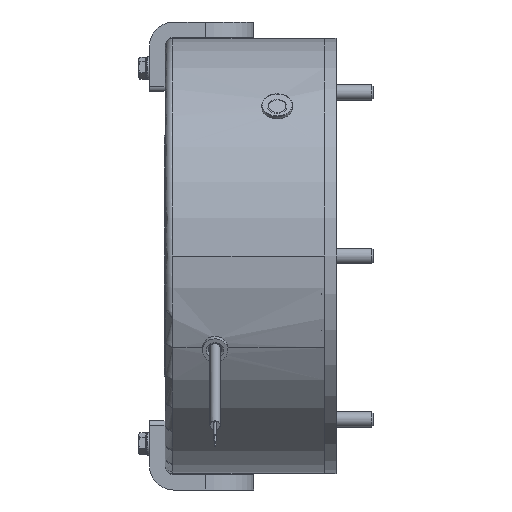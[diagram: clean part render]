
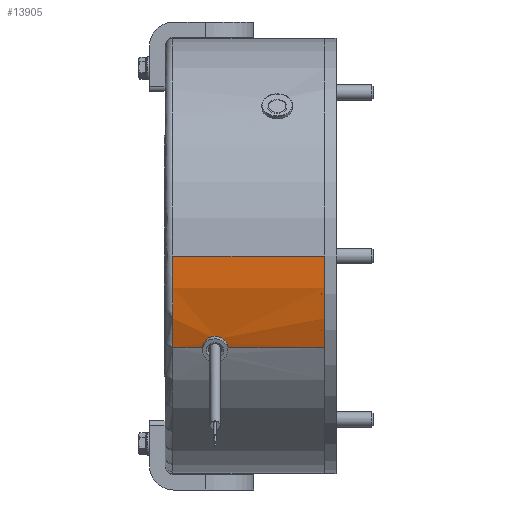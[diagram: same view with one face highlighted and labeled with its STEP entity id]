
A CAD part, front view. The second image highlights one B-rep face of the part: STEP entity #13905.
In plain terms, the highlighted cylindrical face has radius 113 mm (diameter 226 mm), a partial arc.
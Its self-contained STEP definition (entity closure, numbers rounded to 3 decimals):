
#244=B_SPLINE_CURVE_WITH_KNOTS('',3,(#22728,#22729,#22730,#22731,#22732,
#22733,#22734,#22735,#22736,#22737,#22738,#22739,#22740,#22741,#22742,#22743,
#22744,#22745,#22746),.UNSPECIFIED.,.F.,.F.,(4,2,2,2,3,2,2,2,4),(2.348,
2.544,2.74,2.936,3.131,3.327,
3.523,3.718,3.914),.UNSPECIFIED.);
#1348=FACE_OUTER_BOUND('',#2228,.T.);
#2228=EDGE_LOOP('',(#10614,#10615,#10616,#10617,#10618,#10619,#10620,#10621));
#2735=LINE('',#22240,#3397);
#2736=LINE('',#22248,#3398);
#2737=LINE('',#22254,#3399);
#2738=LINE('',#22256,#3400);
#2739=LINE('',#22276,#3401);
#3397=VECTOR('',#17187,113.);
#3398=VECTOR('',#17194,113.);
#3399=VECTOR('',#17199,113.);
#3400=VECTOR('',#17200,10.);
#3401=VECTOR('',#17201,10.);
#4463=CIRCLE('',#15264,113.);
#4465=CIRCLE('',#15267,113.);
#5291=VERTEX_POINT('',#22238);
#5292=VERTEX_POINT('',#22239);
#5295=VERTEX_POINT('',#22245);
#5296=VERTEX_POINT('',#22247);
#5298=VERTEX_POINT('',#22251);
#5299=VERTEX_POINT('',#22253);
#5300=VERTEX_POINT('',#22255);
#5301=VERTEX_POINT('',#22257);
#6861=EDGE_CURVE('',#5291,#5292,#2735,.T.);
#6865=EDGE_CURVE('',#5296,#5295,#2736,.T.);
#6868=EDGE_CURVE('',#5299,#5298,#2737,.T.);
#6869=EDGE_CURVE('',#5300,#5299,#2738,.T.);
#6871=EDGE_CURVE('',#5292,#5301,#2739,.T.);
#7011=EDGE_CURVE('',#5301,#5300,#244,.T.);
#7464=EDGE_CURVE('',#5291,#5295,#4463,.T.);
#7466=EDGE_CURVE('',#5296,#5298,#4465,.T.);
#10614=ORIENTED_EDGE('',*,*,#6861,.T.);
#10615=ORIENTED_EDGE('',*,*,#6871,.T.);
#10616=ORIENTED_EDGE('',*,*,#7011,.T.);
#10617=ORIENTED_EDGE('',*,*,#6869,.T.);
#10618=ORIENTED_EDGE('',*,*,#6868,.T.);
#10619=ORIENTED_EDGE('',*,*,#7466,.F.);
#10620=ORIENTED_EDGE('',*,*,#6865,.T.);
#10621=ORIENTED_EDGE('',*,*,#7464,.F.);
#12551=CYLINDRICAL_SURFACE('',#15266,113.);
#13905=ADVANCED_FACE('',(#1348),#12551,.T.);
#15264=AXIS2_PLACEMENT_3D('',#23861,#18472,#18473);
#15266=AXIS2_PLACEMENT_3D('',#23863,#18476,#18477);
#15267=AXIS2_PLACEMENT_3D('',#23864,#18478,#18479);
#17187=DIRECTION('',(1.,0.,0.));
#17194=DIRECTION('',(-1.,0.,0.));
#17199=DIRECTION('',(1.,0.,0.));
#17200=DIRECTION('',(1.,0.,0.));
#17201=DIRECTION('',(1.,0.,0.));
#18472=DIRECTION('center_axis',(-1.,0.,0.));
#18473=DIRECTION('ref_axis',(0.,-1.,0.));
#18476=DIRECTION('center_axis',(1.,0.,0.));
#18477=DIRECTION('ref_axis',(0.,0.906,0.423));
#18478=DIRECTION('center_axis',(1.,0.,0.));
#18479=DIRECTION('ref_axis',(0.,1.,0.));
#22238=CARTESIAN_POINT('',(-78.8,-102.413,-47.756));
#22239=CARTESIAN_POINT('',(-63.4,-102.413,-47.756));
#22240=CARTESIAN_POINT('',(-41.4,-102.413,-47.756));
#22245=CARTESIAN_POINT('',(-78.8,-113.,0.));
#22247=CARTESIAN_POINT('',(0.,-113.,0.));
#22248=CARTESIAN_POINT('',(-41.4,-113.,0.));
#22251=CARTESIAN_POINT('',(0.,-102.413,-47.756));
#22253=CARTESIAN_POINT('',(-50.2,-102.413,-47.756));
#22254=CARTESIAN_POINT('',(-41.4,-102.413,-47.756));
#22255=CARTESIAN_POINT('',(-51.6,-102.413,-47.756));
#22256=CARTESIAN_POINT('',(-41.4,-102.413,-47.756));
#22257=CARTESIAN_POINT('',(-62.,-102.413,-47.756));
#22276=CARTESIAN_POINT('',(-41.4,-102.413,-47.756));
#22728=CARTESIAN_POINT('Ctrl Pts',(-62.,-102.413,-47.756));
#22729=CARTESIAN_POINT('Ctrl Pts',(-62.,-102.689,-47.164));
#22730=CARTESIAN_POINT('Ctrl Pts',(-61.869,-102.977,
-46.531));
#22731=CARTESIAN_POINT('Ctrl Pts',(-61.337,-103.498,
-45.361));
#22732=CARTESIAN_POINT('Ctrl Pts',(-60.936,-103.73,
-44.825));
#22733=CARTESIAN_POINT('Ctrl Pts',(-60.011,-104.092,
-43.979));
#22734=CARTESIAN_POINT('Ctrl Pts',(-59.427,-104.246,
-43.611));
#22735=CARTESIAN_POINT('Ctrl Pts',(-58.147,-104.449,
-43.123));
#22736=CARTESIAN_POINT('Ctrl Pts',(-57.452,-104.498,
-43.003));
#22737=CARTESIAN_POINT('Ctrl Pts',(-56.8,-104.498,-43.003));
#22738=CARTESIAN_POINT('Ctrl Pts',(-56.148,-104.498,
-43.003));
#22739=CARTESIAN_POINT('Ctrl Pts',(-55.452,-104.448,
-43.123));
#22740=CARTESIAN_POINT('Ctrl Pts',(-54.172,-104.245,
-43.612));
#22741=CARTESIAN_POINT('Ctrl Pts',(-53.587,-104.091,
-43.98));
#22742=CARTESIAN_POINT('Ctrl Pts',(-52.663,-103.729,
-44.827));
#22743=CARTESIAN_POINT('Ctrl Pts',(-52.263,-103.497,
-45.362));
#22744=CARTESIAN_POINT('Ctrl Pts',(-51.731,-102.977,
-46.531));
#22745=CARTESIAN_POINT('Ctrl Pts',(-51.6,-102.689,
-47.165));
#22746=CARTESIAN_POINT('Ctrl Pts',(-51.6,-102.413,
-47.756));
#23861=CARTESIAN_POINT('Origin',(-78.8,0.,0.));
#23863=CARTESIAN_POINT('Origin',(-41.4,0.,0.));
#23864=CARTESIAN_POINT('Origin',(0.,0.,0.));
